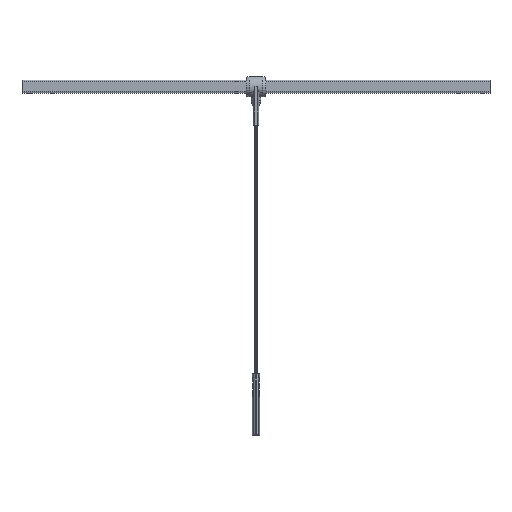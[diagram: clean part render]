
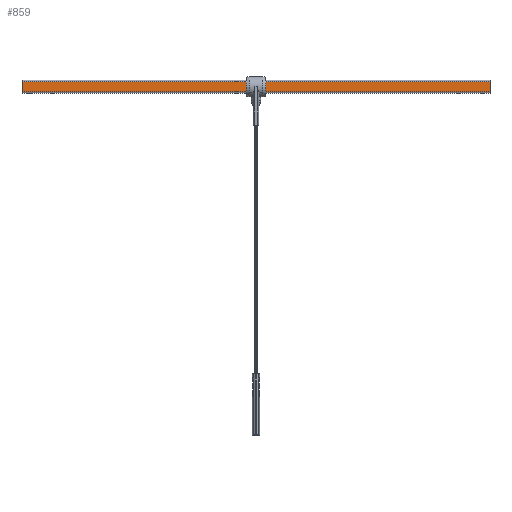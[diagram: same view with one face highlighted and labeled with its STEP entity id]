
A CAD part, top view. The second image highlights one B-rep face of the part: STEP entity #859.
In plain terms, the highlighted planar face has unit normal (0, 0, 1).
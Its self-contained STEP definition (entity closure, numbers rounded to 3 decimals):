
#216=DIRECTION('',(0.,-1.,0.));
#217=VECTOR('',#216,20.);
#218=CARTESIAN_POINT('',(-455.,10.,12.5));
#219=LINE('',#218,#217);
#285=DIRECTION('',(0.,-1.,0.));
#286=VECTOR('',#285,20.);
#287=CARTESIAN_POINT('',(455.,10.,12.5));
#288=LINE('',#287,#286);
#380=DIRECTION('',(-1.,0.,0.));
#381=VECTOR('',#380,910.);
#382=CARTESIAN_POINT('',(455.,10.,12.5));
#383=LINE('',#382,#381);
#384=DIRECTION('',(-1.,0.,0.));
#385=VECTOR('',#384,910.);
#386=CARTESIAN_POINT('',(455.,-10.,12.5));
#387=LINE('',#386,#385);
#598=CARTESIAN_POINT('',(-455.,10.,12.5));
#600=VERTEX_POINT('',#598);
#604=CARTESIAN_POINT('',(455.,10.,12.5));
#605=VERTEX_POINT('',#604);
#607=CARTESIAN_POINT('',(-455.,-10.,12.5));
#609=VERTEX_POINT('',#607);
#610=CARTESIAN_POINT('',(455.,-10.,12.5));
#611=VERTEX_POINT('',#610);
#847=CARTESIAN_POINT('',(-455.,12.5,12.5));
#848=DIRECTION('',(0.,0.,1.));
#849=DIRECTION('',(0.,-1.,0.));
#850=AXIS2_PLACEMENT_3D('',#847,#848,#849);
#851=PLANE('',#850);
#853=ORIENTED_EDGE('',*,*,#852,.F.);
#854=ORIENTED_EDGE('',*,*,#739,.T.);
#855=ORIENTED_EDGE('',*,*,#840,.T.);
#856=ORIENTED_EDGE('',*,*,#680,.F.);
#857=EDGE_LOOP('',(#853,#854,#855,#856));
#858=FACE_OUTER_BOUND('',#857,.F.);
#680=EDGE_CURVE('',#600,#609,#219,.T.);
#739=EDGE_CURVE('',#605,#611,#288,.T.);
#840=EDGE_CURVE('',#611,#609,#387,.T.);
#852=EDGE_CURVE('',#605,#600,#383,.T.);
#859=ADVANCED_FACE('',(#858),#851,.T.);
